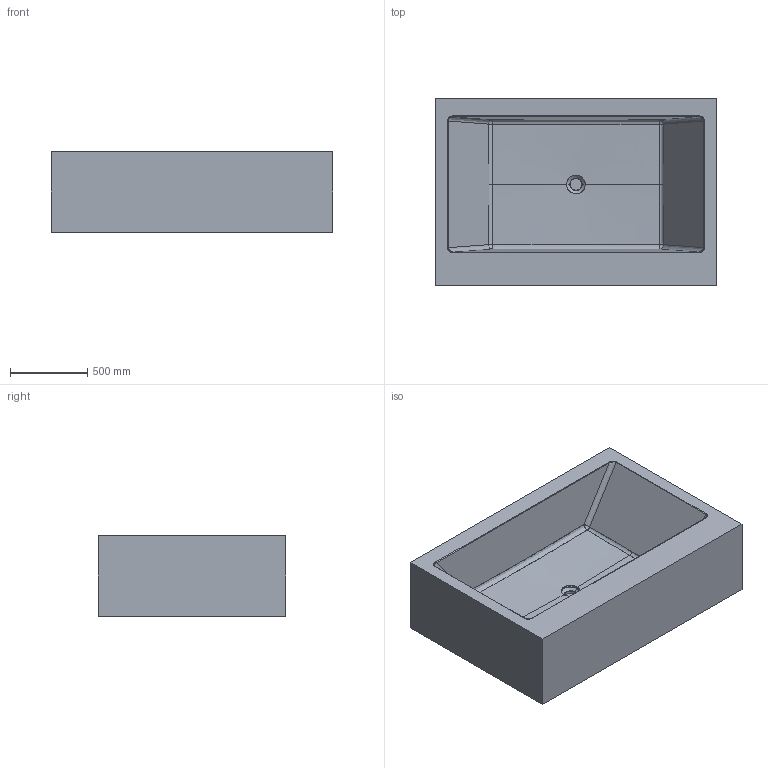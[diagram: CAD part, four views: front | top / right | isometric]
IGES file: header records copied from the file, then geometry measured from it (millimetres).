
Global section: file name: \\Archi-NAS\Comune\X GIOVANNI\LAVABI\VASCHE SQUADRATE CUSTOMIZZABILI\MIAMI\3D\MIAMI.igs; native system: Rhinoceros ( Feb 23 2021 ); preprocessor: Trout Lake IGES 012 Feb 23 2021; date: 230531.124618; units: millimetre
Bounding box: 1828 x 1219 x 520 mm (x, y, z)
Surface area: 9659463.6 mm2 (no closed solid volume)
Topology: 0 solids, 0 shells, 129 faces, 4631 edges, 4630 vertices
Faces by surface type: bspline 129
